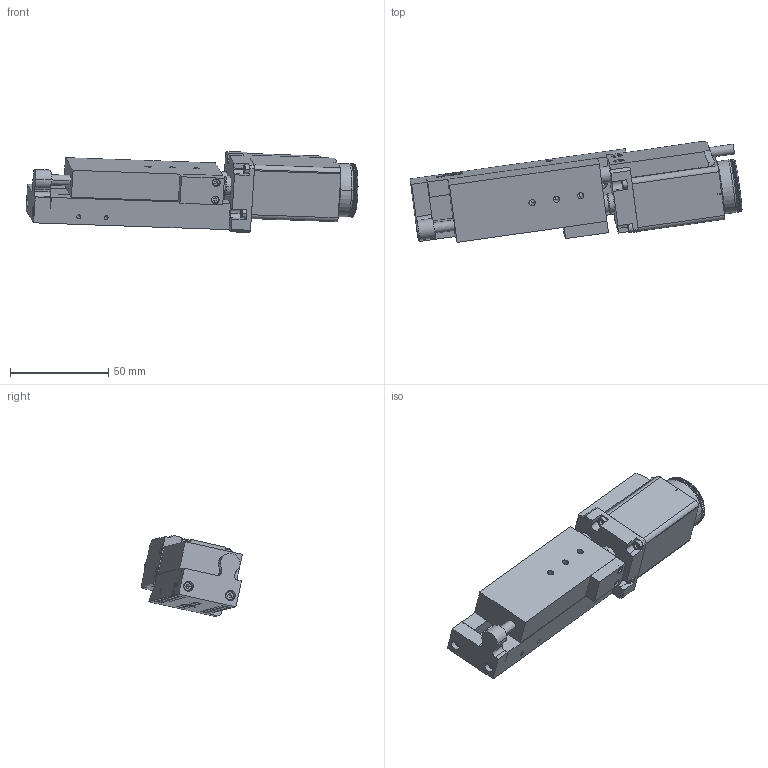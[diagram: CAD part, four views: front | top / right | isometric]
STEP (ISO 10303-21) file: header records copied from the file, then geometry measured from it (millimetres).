
FILE_DESCRIPTION (( 'STEP AP203' ), '1' );
FILE_NAME ('8MT30-50.STEP', '2009-11-12T06:52:38', ( 'Darius' ), ( '' ), 'SwSTEP 2.0', 'SolidWorks 2003240', '' );
FILE_SCHEMA (( 'CONFIG_CONTROL_DESIGN' ));
Length unit declared in the file: millimetre
Products named in the file (1): 8MT30-50
Bounding box: 168.83 x 51.22 x 41.16 mm (x, y, z)
Volume: 129012.5 mm3; surface area: 37692.3 mm2
Topology: 1 solids, 24 shells, 1566 faces, 4162 edges, 2687 vertices
Faces by surface type: plane 697, cylinder 636, bspline 162, cone 71
Entity records: 52553 total; most frequent: CARTESIAN_POINT 14521, ORIENTED_EDGE 8210, DIRECTION 7580, EDGE_CURVE 4105, AXIS2_PLACEMENT_3D 2772, VERTEX_POINT 2687, VECTOR 2036, LINE 2036
